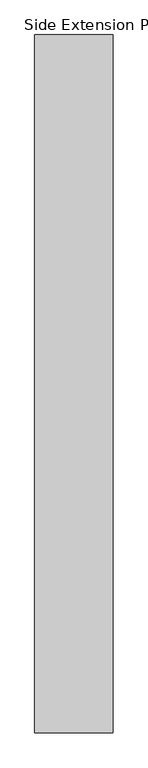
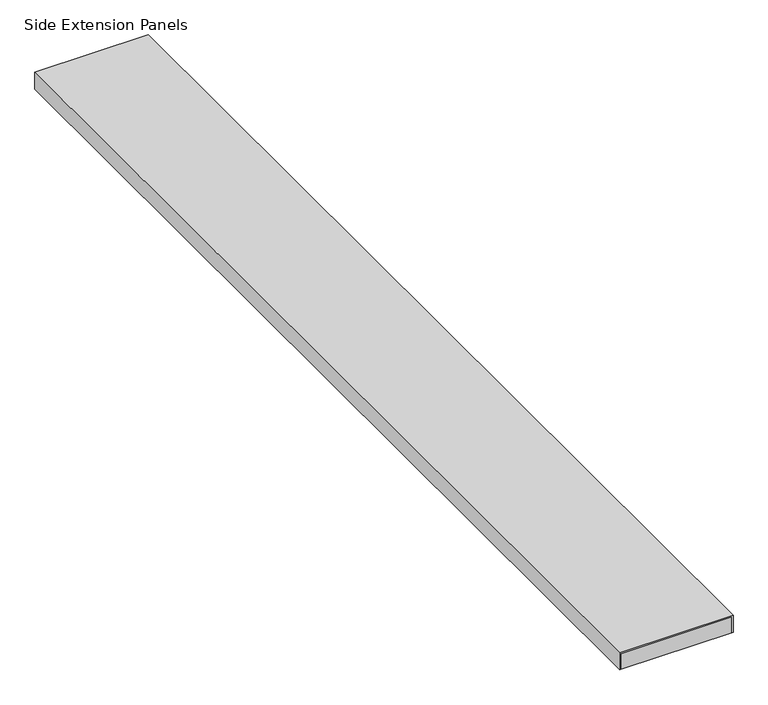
"""IFC4 building model written with IfcOpenShell, lengths in millimetres: proxy geometry, Spinneybeck_Drift : Side Extension Panels."""

from ifc_helpers import new_model, si_unit, frame, origin, place, context, project, spatial, polyline, outline, extrude, source, transform, mapped, element, save


def side_extension_panels_52d0bc55(model_context):
    return source(origin(), model_context, "Body", "SweptSolid", [
        extrude(outline(polyline([(49.4564922, 136.55), (49.4564922, -136.55), (6.3564922, -136.55), (6.3564922, -133.550006), (46.4564922, -133.550006), (46.4564922, 133.550006), (6.4, 133.550006), (6.4, 136.55), (49.4564922, 136.55)])), frame((0.0, 0.0, 0.0), z_axis=(0.0, 1.0, 0.0), x_axis=(0.0, 0.0, 1.0)), (0.0, 0.0, 1.0), 2438.35),
        extrude(outline(polyline([(-133.550006, 2438.35), (133.550006, 2438.35), (133.550006, 0.0), (-133.550006, 0.0), (-133.550006, 2438.35)])), frame((0.0, 0.0, 6.4), z_axis=(0.0, 0.0, 1.0), x_axis=(1.0, 0.0, 0.0)), (0.0, 0.0, 1.0), 40.0564922),
    ])


if __name__ == "__main__":
    model = new_model("IFC4")
    model_context = context("Model", 3, world=origin())
    ifc_project = project(units=[si_unit("LENGTHUNIT", "METRE", prefix="MILLI")], contexts=[model_context])
    site = spatial("IfcSite", under=ifc_project)
    building = spatial("IfcBuilding", under=site)
    placement = place(None, origin())
    side_extension_panels_shape = side_extension_panels_52d0bc55(model_context)
    element("IfcBuildingElementProxy", 1, Name="Spinneybeck_Drift : Side Extension Panels", ObjectType="Spinneybeck_Drift : Side Extension Panels", at=placement, inside=building, context=model_context, shape_type="MappedRepresentation", body=[
        mapped(side_extension_panels_shape, transform((0.0, 0.0, 0.0), x_axis=(1.0, 0.0, 0.0), y_axis=(0.0, 1.0, 0.0), z_axis=(0.0, 0.0, 1.0))),
    ])
    save(model, "model.ifc")
